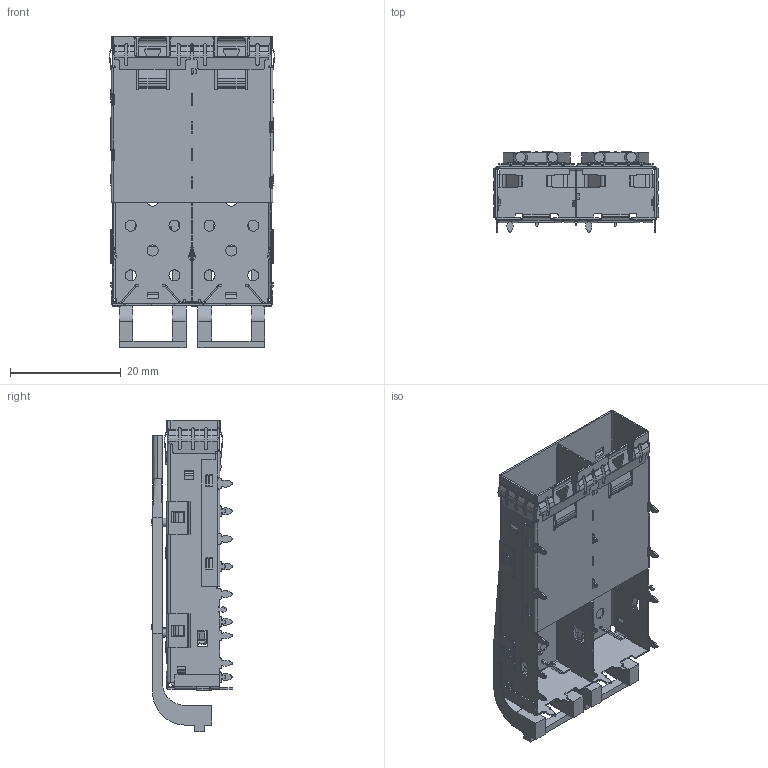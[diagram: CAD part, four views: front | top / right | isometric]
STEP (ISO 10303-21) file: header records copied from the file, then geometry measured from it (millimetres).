
FILE_DESCRIPTION((''),'2;1');
FILE_NAME('47045-01N011','2022-11-22T',('05956'),(''),'CREO PARAMETRIC BY PTC INC, 2017170','CREO PARAMETRIC BY PTC INC, 2017170','');
FILE_SCHEMA(('AUTOMOTIVE_DESIGN { 1 0 10303 214 1 1 1 1 }'));
Products named in the file (1): 47045-01N011
Bounding box: 29.95 x 14.7 x 56.43 mm (x, y, z)
Volume: 2365 mm3; surface area: 11614.2 mm2
Topology: 1 solids, 2 shells, 2169 faces, 6333 edges, 4077 vertices
Faces by surface type: plane 1171, cylinder 968, bspline 26, extrusion 4
Entity records: 87560 total; most frequent: CARTESIAN_POINT 14310, ORIENTED_EDGE 12666, DIRECTION 12400, EDGE_CURVE 6333, VECTOR 4162, LINE 4158, AXIS2_PLACEMENT_3D 4119, VERTEX_POINT 4077
